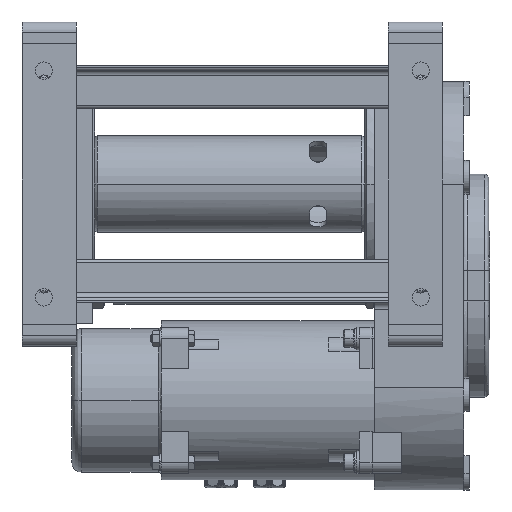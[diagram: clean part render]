
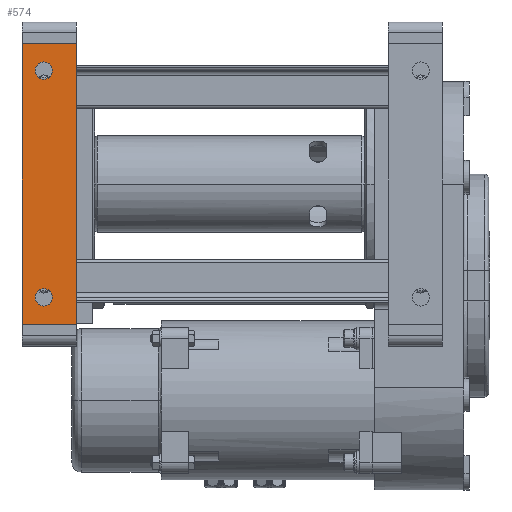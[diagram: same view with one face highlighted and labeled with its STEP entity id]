
A CAD part, front view. The second image highlights one B-rep face of the part: STEP entity #574.
In plain terms, the highlighted planar face has unit normal (0, -1, 0).
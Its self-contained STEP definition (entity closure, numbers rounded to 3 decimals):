
#574=ADVANCED_FACE('',(#5001,#5002,#5003),#5000,.F.);
#5000=PLANE('',#25378);
#5001=FACE_OUTER_BOUND('',#25379,.T.);
#5002=FACE_BOUND('',#25380,.T.);
#5003=FACE_BOUND('',#25381,.T.);
#25375=CARTESIAN_POINT('',(-1331.896,-1702.788,-1343.871));
#25376=DIRECTION('',(0.,1.,0.));
#25377=DIRECTION('',(0.,0.,-1.));
#25378=AXIS2_PLACEMENT_3D('',#25375,#25376,#25377);
#25379=EDGE_LOOP('',(#39919,#39920,#39921,#39922));
#25380=EDGE_LOOP('',(#39923,#39924));
#25381=EDGE_LOOP('',(#39925,#39926));
#39919=ORIENTED_EDGE('',*,*,#50334,.T.);
#39920=ORIENTED_EDGE('',*,*,#50335,.F.);
#39921=ORIENTED_EDGE('',*,*,#50336,.F.);
#39922=ORIENTED_EDGE('',*,*,#50337,.T.);
#39923=ORIENTED_EDGE('',*,*,#50338,.T.);
#39924=ORIENTED_EDGE('',*,*,#50339,.T.);
#39925=ORIENTED_EDGE('',*,*,#50340,.T.);
#39926=ORIENTED_EDGE('',*,*,#50341,.T.);
#50334=EDGE_CURVE('',#61573,#61574,#61575,.T.);
#50335=EDGE_CURVE('',#61581,#61574,#61582,.T.);
#50336=EDGE_CURVE('',#61588,#61581,#61589,.T.);
#50337=EDGE_CURVE('',#61588,#61573,#61595,.T.);
#50338=EDGE_CURVE('',#61601,#61602,#61603,.T.);
#50339=EDGE_CURVE('',#61602,#61601,#61609,.T.);
#50340=EDGE_CURVE('',#61615,#61616,#61617,.T.);
#50341=EDGE_CURVE('',#61616,#61615,#61623,.T.);
#61573=VERTEX_POINT('',#95559);
#61574=VERTEX_POINT('',#95560);
#61575=LINE('',#95561,#95562);
#61581=VERTEX_POINT('',#95564);
#61582=LINE('',#95565,#95566);
#61588=VERTEX_POINT('',#95568);
#61589=LINE('',#95569,#95570);
#61595=LINE('',#95572,#95573);
#61601=VERTEX_POINT('',#95575);
#61602=VERTEX_POINT('',#95576);
#61603=CIRCLE('',#95580,8.);
#61609=CIRCLE('',#95584,8.);
#61615=VERTEX_POINT('',#95585);
#61616=VERTEX_POINT('',#95586);
#61617=CIRCLE('',#95590,8.);
#61623=CIRCLE('',#95594,8.);
#95559=CARTESIAN_POINT('',(-1386.896,-1702.788,-1613.871));
#95560=CARTESIAN_POINT('',(-1336.896,-1702.788,-1613.871));
#95561=CARTESIAN_POINT('',(-1386.896,-1702.788,-1613.871));
#95562=VECTOR('',#95563,50.);
#95563=DIRECTION('',(1.,0.,0.));
#95564=CARTESIAN_POINT('',(-1336.896,-1702.788,-1353.871));
#95565=CARTESIAN_POINT('',(-1336.896,-1702.788,-1353.871));
#95566=VECTOR('',#95567,260.);
#95567=DIRECTION('',(0.,0.,-1.));
#95568=CARTESIAN_POINT('',(-1386.896,-1702.788,-1353.871));
#95569=CARTESIAN_POINT('',(-1386.896,-1702.788,-1353.871));
#95570=VECTOR('',#95571,50.);
#95571=DIRECTION('',(1.,0.,0.));
#95572=CARTESIAN_POINT('',(-1386.896,-1702.788,-1353.871));
#95573=VECTOR('',#95574,260.);
#95574=DIRECTION('',(0.,0.,-1.));
#95575=CARTESIAN_POINT('',(-1366.896,-1702.788,-1386.871));
#95576=CARTESIAN_POINT('',(-1366.896,-1702.788,-1370.871));
#95577=CARTESIAN_POINT('',(-1366.896,-1702.788,-1378.871));
#95578=DIRECTION('',(0.,1.,0.));
#95579=DIRECTION('',(0.,0.,-1.));
#95580=AXIS2_PLACEMENT_3D('',#95577,#95578,#95579);
#95581=CARTESIAN_POINT('',(-1366.896,-1702.788,-1378.871));
#95582=DIRECTION('',(0.,1.,0.));
#95583=DIRECTION('',(0.,0.,-1.));
#95584=AXIS2_PLACEMENT_3D('',#95581,#95582,#95583);
#95585=CARTESIAN_POINT('',(-1366.896,-1702.788,-1596.871));
#95586=CARTESIAN_POINT('',(-1366.896,-1702.788,-1580.871));
#95587=CARTESIAN_POINT('',(-1366.896,-1702.788,-1588.871));
#95588=DIRECTION('',(0.,1.,0.));
#95589=DIRECTION('',(0.,0.,-1.));
#95590=AXIS2_PLACEMENT_3D('',#95587,#95588,#95589);
#95591=CARTESIAN_POINT('',(-1366.896,-1702.788,-1588.871));
#95592=DIRECTION('',(0.,1.,0.));
#95593=DIRECTION('',(0.,0.,-1.));
#95594=AXIS2_PLACEMENT_3D('',#95591,#95592,#95593);
